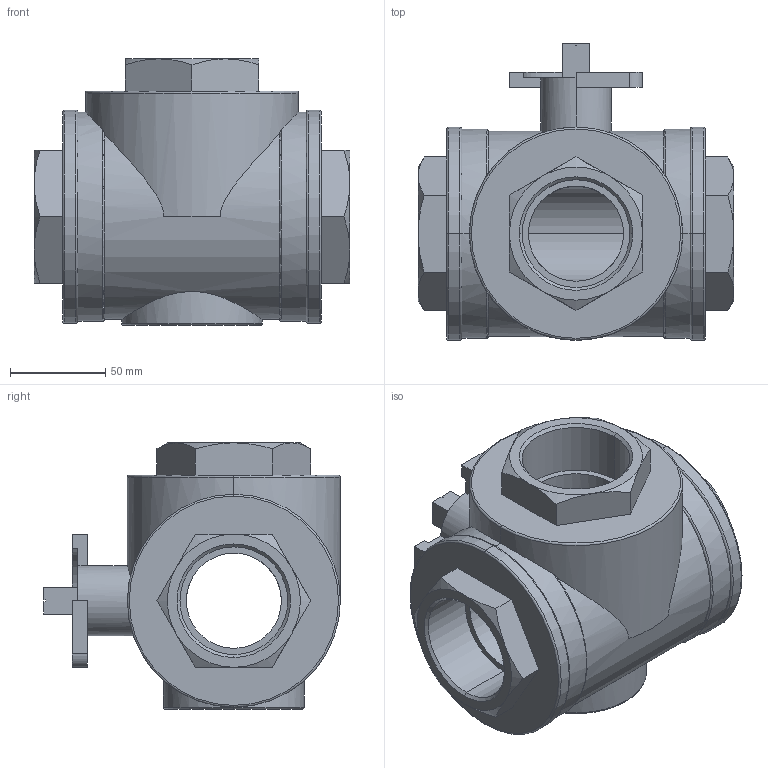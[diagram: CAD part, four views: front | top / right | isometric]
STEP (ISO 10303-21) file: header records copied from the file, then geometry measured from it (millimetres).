
FILE_DESCRIPTION (( 'STEP AP214' ), '1' );
FILE_NAME ('Ballvalve A35-DN50 G2.step', '2010-09-23T08:41:28', ( '' ), ( '' ), 'SwSTEP 2.0', 'SolidWorks 2010', '' );
FILE_SCHEMA (( 'AUTOMOTIVE_DESIGN' ));
Length unit declared in the file: millimetre
Products named in the file (1): Ballvalve A35-DN50 G2
Bounding box: 166 x 156 x 140 mm (x, y, z)
Volume: 1253751.9 mm3; surface area: 129655 mm2
Topology: 1 solids, 1 shells, 126 faces, 307 edges, 189 vertices
Faces by surface type: plane 51, cylinder 36, cone 24, torus 15
Entity records: 4396 total; most frequent: CARTESIAN_POINT 1353, DIRECTION 614, ORIENTED_EDGE 614, EDGE_CURVE 307, AXIS2_PLACEMENT_3D 238, VERTEX_POINT 189, EDGE_LOOP 142, LINE 138
